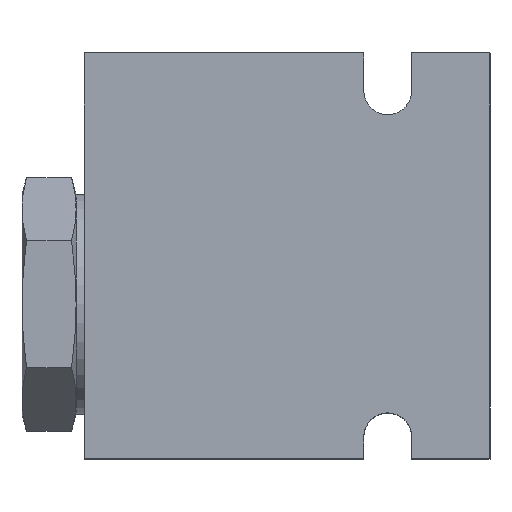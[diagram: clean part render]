
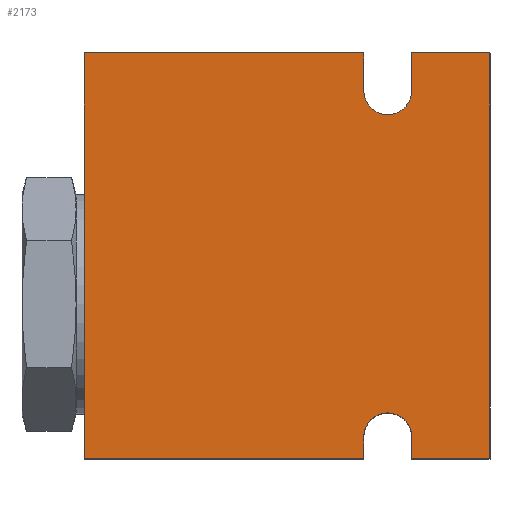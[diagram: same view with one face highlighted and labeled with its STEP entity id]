
A CAD part, top view. The second image highlights one B-rep face of the part: STEP entity #2173.
In plain terms, the highlighted planar face has unit normal (0, 0, 1).
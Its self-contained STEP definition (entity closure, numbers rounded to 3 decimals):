
#55=LINE('',#4146,#132);
#58=LINE('',#4241,#135);
#60=LINE('',#4273,#137);
#65=LINE('',#4284,#142);
#67=LINE('',#4288,#144);
#68=LINE('',#4290,#145);
#69=LINE('',#4294,#146);
#70=LINE('',#4296,#147);
#71=LINE('',#4298,#148);
#72=LINE('',#4299,#149);
#132=VECTOR('',#3431,1000.);
#135=VECTOR('',#3440,1000.);
#137=VECTOR('',#3446,1000.);
#142=VECTOR('',#3453,1000.);
#144=VECTOR('',#3457,1000.);
#145=VECTOR('',#3458,1000.);
#146=VECTOR('',#3461,1000.);
#147=VECTOR('',#3462,1000.);
#148=VECTOR('',#3463,1000.);
#149=VECTOR('',#3464,1000.);
#633=ORIENTED_EDGE('',*,*,#1089,.T.);
#634=ORIENTED_EDGE('',*,*,#1082,.F.);
#635=ORIENTED_EDGE('',*,*,#1037,.F.);
#636=ORIENTED_EDGE('',*,*,#1070,.F.);
#637=ORIENTED_EDGE('',*,*,#1090,.F.);
#638=ORIENTED_EDGE('',*,*,#1091,.F.);
#639=ORIENTED_EDGE('',*,*,#1092,.F.);
#640=ORIENTED_EDGE('',*,*,#1093,.F.);
#641=ORIENTED_EDGE('',*,*,#1094,.F.);
#642=ORIENTED_EDGE('',*,*,#1087,.F.);
#643=ORIENTED_EDGE('',*,*,#1095,.T.);
#644=ORIENTED_EDGE('',*,*,#1096,.T.);
#1037=EDGE_CURVE('',#1715,#1716,#55,.T.);
#1070=EDGE_CURVE('',#1748,#1715,#58,.T.);
#1082=EDGE_CURVE('',#1716,#1759,#60,.T.);
#1087=EDGE_CURVE('',#1763,#1764,#65,.T.);
#1089=EDGE_CURVE('',#1765,#1759,#67,.T.);
#1090=EDGE_CURVE('',#1766,#1748,#68,.T.);
#1091=EDGE_CURVE('',#1767,#1766,#1273,.T.);
#1092=EDGE_CURVE('',#1768,#1767,#69,.T.);
#1093=EDGE_CURVE('',#1769,#1768,#70,.T.);
#1094=EDGE_CURVE('',#1764,#1769,#71,.T.);
#1095=EDGE_CURVE('',#1763,#1770,#72,.T.);
#1096=EDGE_CURVE('',#1770,#1765,#1274,.T.);
#1273=CIRCLE('',#3035,4.5);
#1274=CIRCLE('',#3036,4.5);
#1441=EDGE_LOOP('',(#633,#634,#635,#636,#637,#638,#639,#640,#641,#642,#643,
#644));
#1569=PLANE('',#3034);
#1715=VERTEX_POINT('',#4145);
#1716=VERTEX_POINT('',#4147);
#1748=VERTEX_POINT('',#4240);
#1759=VERTEX_POINT('',#4274);
#1763=VERTEX_POINT('',#4283);
#1764=VERTEX_POINT('',#4285);
#1765=VERTEX_POINT('',#4289);
#1766=VERTEX_POINT('',#4291);
#1767=VERTEX_POINT('',#4293);
#1768=VERTEX_POINT('',#4295);
#1769=VERTEX_POINT('',#4297);
#1770=VERTEX_POINT('',#4300);
#1981=FACE_BOUND('',#1441,.T.);
#2173=ADVANCED_FACE('',(#1981),#1569,.F.);
#3034=AXIS2_PLACEMENT_3D('',#4287,#3455,#3456);
#3035=AXIS2_PLACEMENT_3D('',#4292,#3459,#3460);
#3036=AXIS2_PLACEMENT_3D('',#4301,#3465,#3466);
#3431=DIRECTION('',(0.,1.,0.));
#3440=DIRECTION('',(-1.,0.,0.));
#3446=DIRECTION('',(1.,0.,0.));
#3453=DIRECTION('',(1.,0.,0.));
#3455=DIRECTION('',(0.,0.,-1.));
#3456=DIRECTION('',(-1.,0.,0.));
#3457=DIRECTION('',(0.,1.,0.));
#3458=DIRECTION('',(0.,-1.,0.));
#3459=DIRECTION('',(0.,0.,1.));
#3460=DIRECTION('',(1.,0.,0.));
#3461=DIRECTION('',(0.,1.,0.));
#3462=DIRECTION('',(-1.,0.,0.));
#3463=DIRECTION('',(0.,-1.,0.));
#3464=DIRECTION('',(0.,-1.,0.));
#3465=DIRECTION('',(0.,0.,-1.));
#3466=DIRECTION('',(1.,0.,0.));
#4145=CARTESIAN_POINT('',(-38.1,-38.1,50.8));
#4146=CARTESIAN_POINT('',(-38.1,-38.1,50.8));
#4147=CARTESIAN_POINT('',(-38.1,38.1,50.8));
#4240=CARTESIAN_POINT('',(-23.4,-38.1,50.8));
#4241=CARTESIAN_POINT('',(38.1,-38.1,50.8));
#4273=CARTESIAN_POINT('',(-38.1,38.1,50.8));
#4274=CARTESIAN_POINT('',(-23.4,38.1,50.8));
#4283=CARTESIAN_POINT('',(-14.4,38.1,50.8));
#4284=CARTESIAN_POINT('',(-38.1,38.1,50.8));
#4285=CARTESIAN_POINT('',(38.1,38.1,50.8));
#4287=CARTESIAN_POINT('',(0.,0.,50.8));
#4288=CARTESIAN_POINT('',(-23.4,34.,50.8));
#4289=CARTESIAN_POINT('',(-23.4,34.,50.8));
#4290=CARTESIAN_POINT('',(-23.4,-31.,50.8));
#4291=CARTESIAN_POINT('',(-23.4,-31.,50.8));
#4292=CARTESIAN_POINT('',(-18.9,-31.,50.8));
#4293=CARTESIAN_POINT('',(-14.4,-31.,50.8));
#4294=CARTESIAN_POINT('',(-14.4,-31.,50.8));
#4295=CARTESIAN_POINT('',(-14.4,-38.1,50.8));
#4296=CARTESIAN_POINT('',(38.1,-38.1,50.8));
#4297=CARTESIAN_POINT('',(38.1,-38.1,50.8));
#4298=CARTESIAN_POINT('',(38.1,38.1,50.8));
#4299=CARTESIAN_POINT('',(-14.4,34.,50.8));
#4300=CARTESIAN_POINT('',(-14.4,34.,50.8));
#4301=CARTESIAN_POINT('',(-18.9,34.,50.8));
